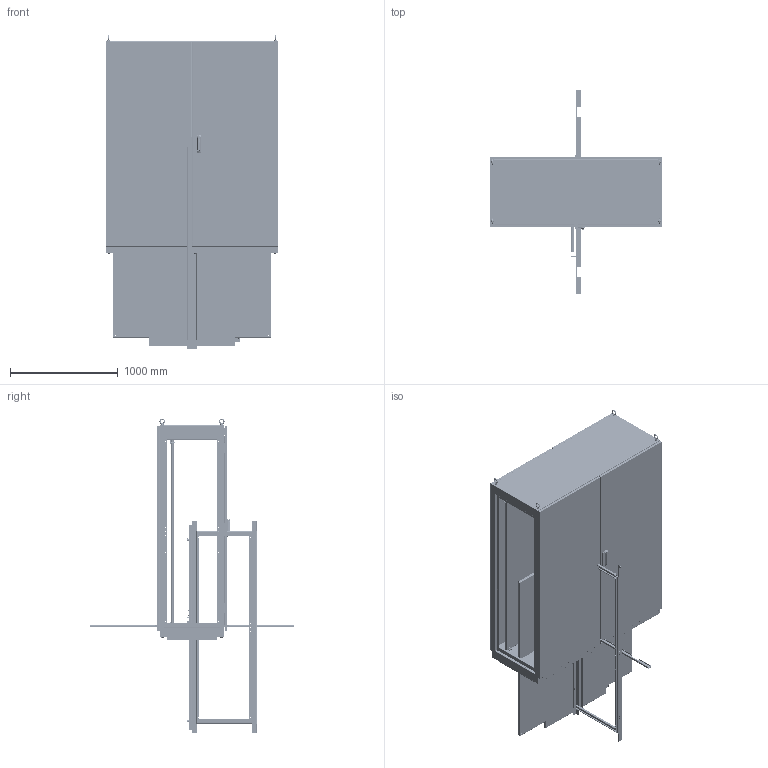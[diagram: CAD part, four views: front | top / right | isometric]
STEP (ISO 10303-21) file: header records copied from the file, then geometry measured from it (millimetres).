
FILE_DESCRIPTION( ( 'Unknown' ), '1' );
FILE_NAME( 'Q:/IME/WEB DRAWINGS/IMET18166.stp', 'Unknown', ( 'Unknown' ), ( 'Unknown' ), 'XStep 1.0', 'Unknown', ' ' );
FILE_SCHEMA( ( 'CONFIG_CONTROL_DESIGN' ) );
Length unit declared in the file: millimetre
Products named in the file (144): Assem1; Assem2; Assem3; Assem4; Assem5; Assem6; Assem7; Assem8; Assem9; Assem10; Assem11; Assem12; Assem13; Assem14; Assem15; Assem16; Assem17; Assem18; Assem19; Assem20; Assem21; Assem22; Assem23; Assem24; Assem25; 1; 2; 3; 4; 5; 6; 7; 8; 9; 10; 11; 12; 13; 14; 15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
Bounding box: 1600.2 x 1892.5 x 2917.15 mm (x, y, z)
Volume: 90739872.9 mm3; surface area: 92700038.8 mm2
Topology: 594 solids, 600 shells, 13642 faces, 34366 edges, 22424 vertices
Faces by surface type: plane 8484, cylinder 4000, cone 446, torus 445, bspline 267
Full cylindrical faces by diameter (mm): 2.464 x16, 3.175 x3, 3.454 x16, 3.607 x12, 4.039 x8, 4.166 x72, 4.216 x16, 4.318 x16, 4.826 x16, 4.851 x8, 4.928 x16, 5.08 x28, 5.105 x18, 5.156 x12, 5.537 x140, 5.842 x8, 5.893 x14, 5.994 x26, 6 x46, 6.35 x106, 6.411 x31, 7.137 x28, 7.366 x12, 7.442 x18, 7.62 x18, 7.938 x94, 8.001 x32, 8.026 x8, 9.525 x22, 9.804 x30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
Entity records: 103007 total; most frequent: CARTESIAN_POINT 25928, DIRECTION 14745, ORIENTED_EDGE 13882, EDGE_CURVE 6941, AXIS2_PLACEMENT_3D 5076, VERTEX_POINT 4729, LINE 4593, VECTOR 4593
